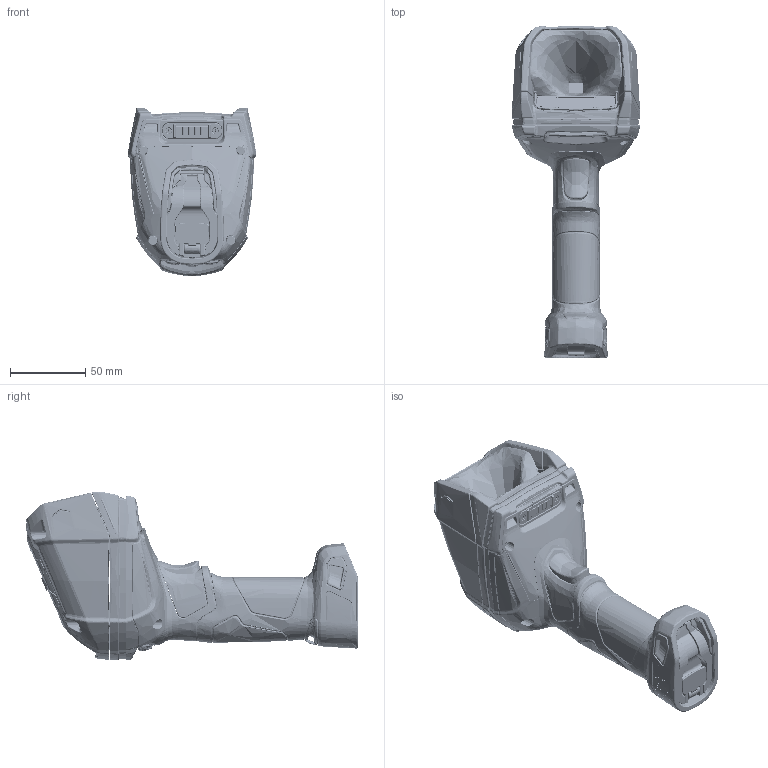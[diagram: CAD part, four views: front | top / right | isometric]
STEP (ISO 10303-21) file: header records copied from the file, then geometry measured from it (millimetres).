
FILE_DESCRIPTION (( 'STEP AP214' ), '1' );
FILE_NAME ('KITE_DX_WIRELESS.STEP', '2020-01-24T16:08:40', ( '' ), ( '' ), 'SwSTEP 2.0', 'SolidWorks 2019', '' );
FILE_SCHEMA (( 'AUTOMOTIVE_DESIGN' ));
Length unit declared in the file: millimetre
Products named in the file (1): KITE_DX_WIRELESS
Bounding box: 85.93 x 221.18 x 112.6 mm (x, y, z)
Volume: 616338.3 mm3; surface area: 125255.9 mm2
Topology: 1 solids, 63 shells, 9048 faces, 23289 edges, 14425 vertices
Faces by surface type: bspline 5333, plane 1979, cylinder 1037, cone 414, torus 160, sphere 125
Full cylindrical faces by diameter (mm): 0.5 x10, 0.7 x4, 1.74 x22, 2.05 x2, 2.5 x6, 2.7 x2, 2.8 x4, 3 x12, 3.1 x10, 3.415 x4, 3.65 x4, 3.79 x8, 3.8 x2, 3.97 x4, 4.37 x4, 5.5 x8, 6.21 x4
Entity records: 659882 total; most frequent: CARTESIAN_POINT 390793, ORIENTED_EDGE 45610, EDGE_CURVE 22805, DIRECTION 19479, VERTEX_POINT 14281, B_SPLINE_CURVE_WITH_KNOTS 13255, EDGE_LOOP 9492, FACE_OUTER_BOUND 9130
